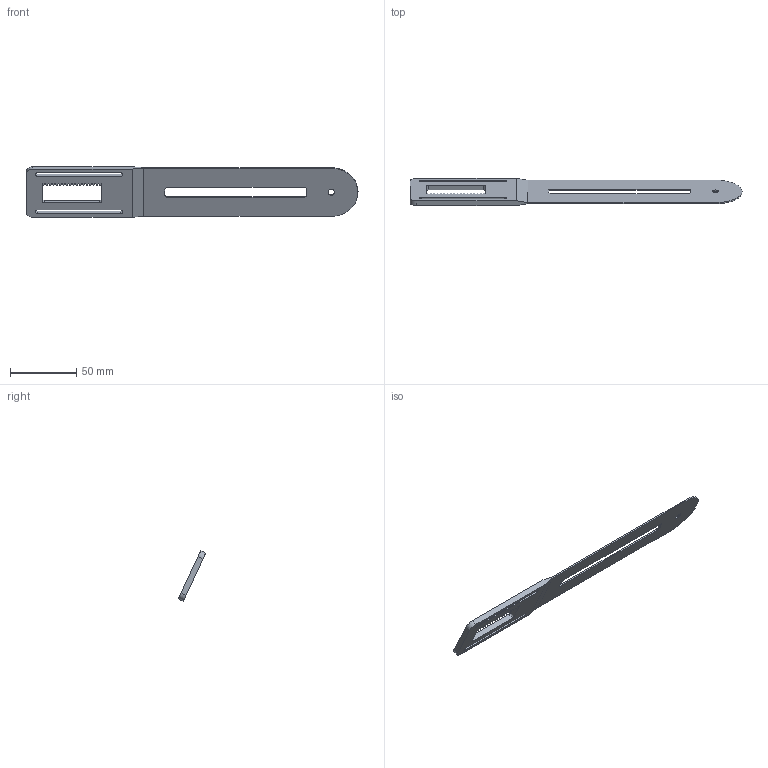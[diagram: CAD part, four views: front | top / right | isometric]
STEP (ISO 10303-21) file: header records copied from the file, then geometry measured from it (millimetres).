
FILE_DESCRIPTION(/* description */ ('STEP AP242 Edition 2','CAx-IF Rec.Pracs.---Representation and Presentation of Product Manufacturing Information (PMI)---4.0---2014-10-13','CAx-IF Rec.Pracs.---3D Tessellated Geometry---0.4---2014-09-14','2;1','CAx-IF Rec.Pracs.---User Defined Attributes---1.5---2016-08-15'),/* implementation_level */ '2;1');
FILE_NAME(/* name */ 'main - strap+rack right',/* time_stamp */ '2026-11-08T20:03:45Z',/* author */ (''),/* organization */ (''),/* preprocessor_version */ 'ST-DEVELOPER v20',/* originating_system */ 'ONSHAPE BY PTC INC, 1.223',/* authorisation */ ' ');
FILE_SCHEMA (('AP242_MANAGED_MODEL_BASED_3D_ENGINEERING_MIM_LF { 1 0 10303 442 3 1 4 }'));
Length unit declared in the file: metre
Products named in the file (1): strap+rack right
Bounding box: 250 x 20.53 x 37.94 mm (x, y, z)
Volume: 14762.3 mm3; surface area: 18921 mm2
Topology: 1 solids, 1 shells, 105 faces, 309 edges, 206 vertices
Faces by surface type: plane 90, cylinder 15
Full cylindrical faces by diameter (mm): 5 x1
Entity records: 3490 total; most frequent: CARTESIAN_POINT 620, ORIENTED_EDGE 616, DIRECTION 550, EDGE_CURVE 308, LINE 278, VECTOR 278, VERTEX_POINT 206, AXIS2_PLACEMENT_3D 136
